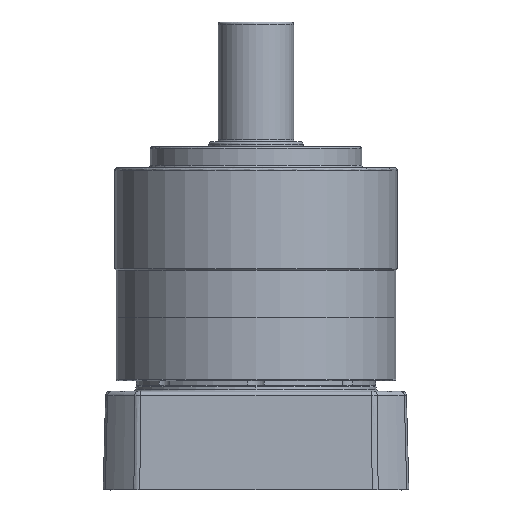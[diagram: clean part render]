
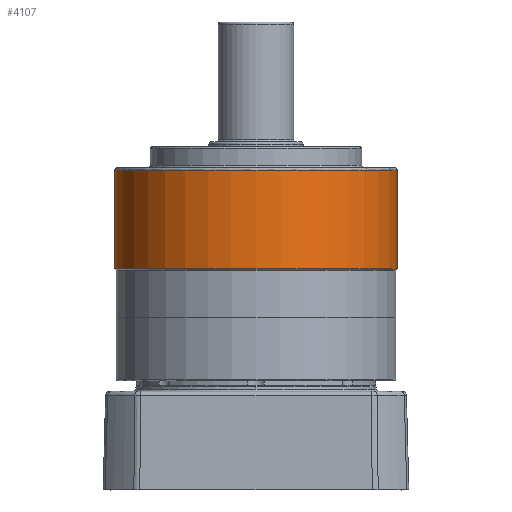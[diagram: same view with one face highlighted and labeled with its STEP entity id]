
A CAD part, front view. The second image highlights one B-rep face of the part: STEP entity #4107.
In plain terms, the highlighted cylindrical face has radius 60 mm (diameter 120 mm), a partial arc.
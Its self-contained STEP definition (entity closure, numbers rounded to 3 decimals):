
#442 = LINE ( 'NONE', #41607, #10012 ) ;
#1395 = EDGE_CURVE ( 'NONE', #8544, #8173, #442, .T. ) ;
#2256 = CYLINDRICAL_SURFACE ( 'NONE', #18013, 60. ) ;
#2866 = CARTESIAN_POINT ( 'NONE',  ( 0., 0., 62.5 ) ) ;
#3997 = DIRECTION ( 'NONE',  ( 0., 0., -1. ) ) ;
#4005 = CARTESIAN_POINT ( 'NONE',  ( 0., 0., 72.5 ) ) ;
#4102 = DIRECTION ( 'NONE',  ( -1., 0., 0. ) ) ;
#4107 = ADVANCED_FACE ( 'NONE', ( #9537 ), #2256, .T. ) ;
#6357 = CARTESIAN_POINT ( 'NONE',  ( -60., 0., 62.5 ) ) ;
#6435 = DIRECTION ( 'NONE',  ( -1., 0., 0. ) ) ;
#6924 = CIRCLE ( 'NONE', #41838, 60. ) ;
#8056 = ORIENTED_EDGE ( 'NONE', *, *, #35958, .F. ) ;
#8173 = VERTEX_POINT ( 'NONE', #25410 ) ;
#8471 = VERTEX_POINT ( 'NONE', #16607 ) ;
#8544 = VERTEX_POINT ( 'NONE', #6357 ) ;
#9537 = FACE_OUTER_BOUND ( 'NONE', #32525, .T. ) ;
#10012 = VECTOR ( 'NONE', #41554, 1000. ) ;
#12918 = VERTEX_POINT ( 'NONE', #27737 ) ;
#13483 = ORIENTED_EDGE ( 'NONE', *, *, #1395, .T. ) ;
#16607 = CARTESIAN_POINT ( 'NONE',  ( 60., 0., 20.5 ) ) ;
#17388 = CARTESIAN_POINT ( 'NONE',  ( 60., 0., 72.5 ) ) ;
#18013 = AXIS2_PLACEMENT_3D ( 'NONE', #4005, #3997, #4102 ) ;
#19983 = CIRCLE ( 'NONE', #40217, 60. ) ;
#20705 = CARTESIAN_POINT ( 'NONE',  ( 0., 0., 20.5 ) ) ;
#24367 = DIRECTION ( 'NONE',  ( 1., 0., 0. ) ) ;
#24421 = DIRECTION ( 'NONE',  ( 0., 0., -1. ) ) ;
#25410 = CARTESIAN_POINT ( 'NONE',  ( -60., 0., 20.5 ) ) ;
#27537 = EDGE_CURVE ( 'NONE', #12918, #8471, #32013, .T. ) ;
#27737 = CARTESIAN_POINT ( 'NONE',  ( 60., 0., 62.5 ) ) ;
#27981 = DIRECTION ( 'NONE',  ( 0., 0., -1. ) ) ;
#30493 = ORIENTED_EDGE ( 'NONE', *, *, #40755, .T. ) ;
#32013 = LINE ( 'NONE', #17388, #32510 ) ;
#32510 = VECTOR ( 'NONE', #24421, 1000. ) ;
#32525 = EDGE_LOOP ( 'NONE', ( #40140, #30493, #13483, #8056 ) ) ;
#35958 = EDGE_CURVE ( 'NONE', #8471, #8173, #19983, .T. ) ;
#40140 = ORIENTED_EDGE ( 'NONE', *, *, #27537, .F. ) ;
#40217 = AXIS2_PLACEMENT_3D ( 'NONE', #20705, #45769, #24367 ) ;
#40755 = EDGE_CURVE ( 'NONE', #12918, #8544, #6924, .T. ) ;
#41554 = DIRECTION ( 'NONE',  ( 0., 0., -1. ) ) ;
#41607 = CARTESIAN_POINT ( 'NONE',  ( -60., 0., 72.5 ) ) ;
#41838 = AXIS2_PLACEMENT_3D ( 'NONE', #2866, #27981, #6435 ) ;
#45769 = DIRECTION ( 'NONE',  ( 0., 0., -1. ) ) ;
